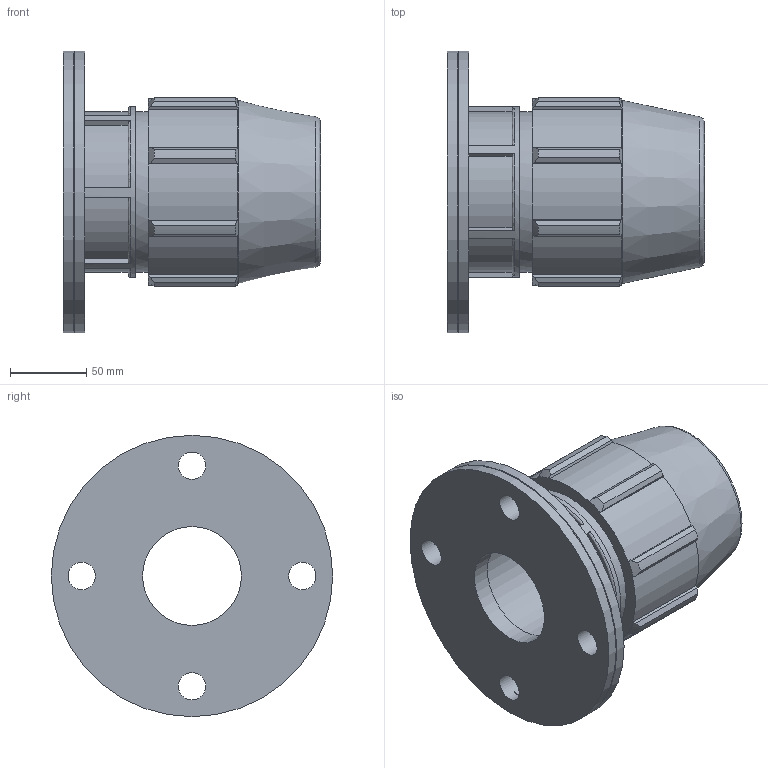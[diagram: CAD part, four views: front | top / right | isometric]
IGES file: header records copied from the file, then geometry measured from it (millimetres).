
Global section: file name: 872200075025_182200075025.ipt; native system: Autodesk Inventor 2015; preprocessor: unknown; author: KIM; date: 20170608.042632; units: millimetre
Bounding box: 169 x 185 x 185 mm (x, y, z)
Volume: 1202112.6 mm3; surface area: 166759.8 mm2
Topology: 1 solids, 1 shells, 116 faces, 328 edges, 220 vertices
Faces by surface type: plane 58, cylinder 26, revolution 17, cone 15
Full cylindrical faces by diameter (mm): 105.6 x1, 112.2 x1, 185 x2
